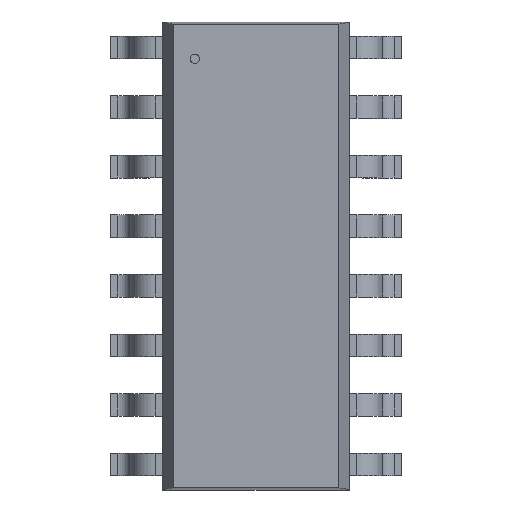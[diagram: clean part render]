
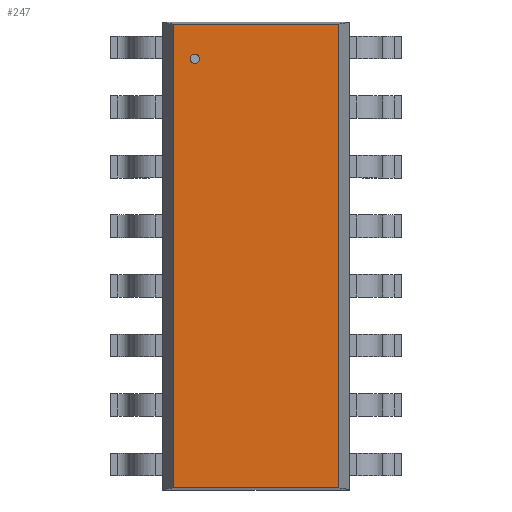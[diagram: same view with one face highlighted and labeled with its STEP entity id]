
A CAD part, top view. The second image highlights one B-rep face of the part: STEP entity #247.
In plain terms, the highlighted planar face has unit normal (0, 0, 1).
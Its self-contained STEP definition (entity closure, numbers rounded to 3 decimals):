
#247=ADVANCED_FACE('',(#253),#248,.T.);
#248=PLANE('',#249);
#249=AXIS2_PLACEMENT_3D('',#250,#251,#252);
#250=CARTESIAN_POINT('',(-1.765,-4.94,1.727));
#251=DIRECTION('',(0.0,0.0,1.0));
#252=DIRECTION('',(0.,1.,0.));
#253=FACE_OUTER_BOUND('',#254,.T.);
#254=EDGE_LOOP('',(#255,#265,#275,#285));
#258=CARTESIAN_POINT('',(1.765,-4.94,1.727));
#257=VERTEX_POINT('',#258);
#260=CARTESIAN_POINT('',(-1.765,-4.94,1.727));
#259=VERTEX_POINT('',#260);
#256=EDGE_CURVE('',#257,#259,#261,.T.);
#261=LINE('',#258,#263);
#263=VECTOR('',#264,3.531);
#264=DIRECTION('',(-1.0,0.0,0.0));
#255=ORIENTED_EDGE('',*,*,#256,.F.);
#268=CARTESIAN_POINT('',(1.765,4.94,1.727));
#267=VERTEX_POINT('',#268);
#266=EDGE_CURVE('',#267,#257,#271,.T.);
#271=LINE('',#268,#273);
#273=VECTOR('',#274,9.881);
#274=DIRECTION('',(0.0,-1.0,0.0));
#265=ORIENTED_EDGE('',*,*,#266,.F.);
#278=CARTESIAN_POINT('',(-1.765,4.94,1.727));
#277=VERTEX_POINT('',#278);
#276=EDGE_CURVE('',#277,#267,#281,.T.);
#281=LINE('',#278,#283);
#283=VECTOR('',#284,3.531);
#284=DIRECTION('',(1.0,0.0,0.0));
#275=ORIENTED_EDGE('',*,*,#276,.F.);
#286=EDGE_CURVE('',#259,#277,#291,.T.);
#291=LINE('',#260,#293);
#293=VECTOR('',#294,9.881);
#294=DIRECTION('',(0.0,1.0,0.0));
#285=ORIENTED_EDGE('',*,*,#286,.F.);
